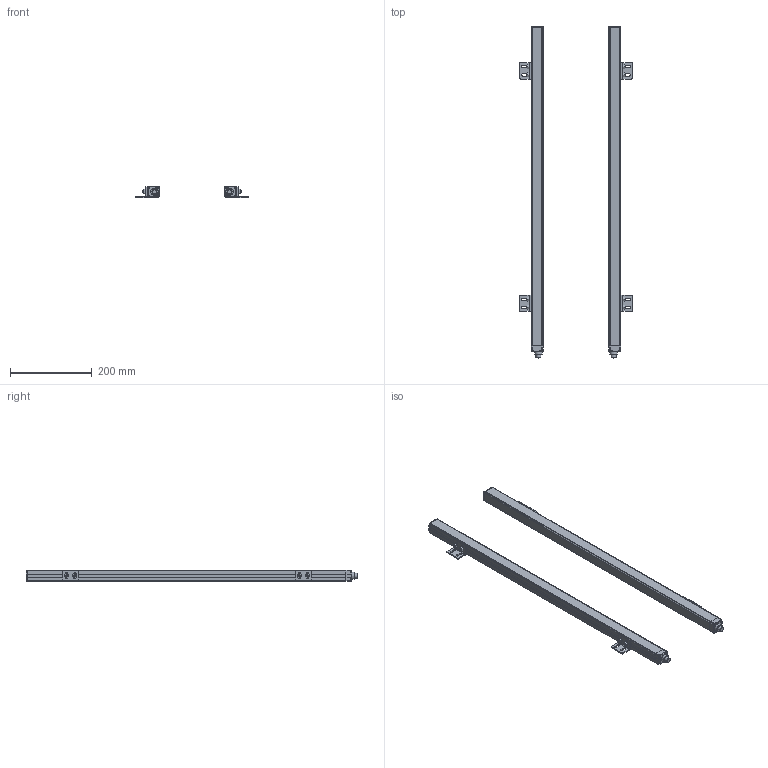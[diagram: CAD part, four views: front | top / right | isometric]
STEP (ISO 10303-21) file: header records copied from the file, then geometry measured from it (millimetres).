
FILE_DESCRIPTION( ( 'STEP AP203' ), '1' );
FILE_NAME( 'p:/temp/worker_12/1588_3284/app_59_02015061609392321660952192d056f_00_00_00_000/STEP/OY005S_2_03.stp', ' ', ( ' ' ), ( ' ' ), 'PSStep 15.0.47', 'PARTsolutions', ' ' );
FILE_SCHEMA( ( 'CONFIG_CONTROL_DESIGN' ) );
Length unit declared in the file: millimetre
Products named in the file (3): OY005S; _OY005S_part1; _OY001S_part2
Assembly tree (6 placements, depth 2):
  OY005S
    _OY005S_part1  x2
    _OY001S_part2  x4
Bounding box: 276 x 813 x 29.34 mm (x, y, z)
Volume: 1304418.2 mm3; surface area: 230720.2 mm2
Topology: 6 solids, 6 shells, 786 faces, 2112 edges, 1394 vertices
Faces by surface type: plane 444, cylinder 324, cone 10, torus 8
Full cylindrical faces by diameter (mm): 2.5 x8, 3 x8, 5 x32, 8.9 x8, 12 x2, 18 x2
Entity records: 10306 total; most frequent: CARTESIAN_POINT 1834, DIRECTION 1788, ORIENTED_EDGE 1690, EDGE_CURVE 845, AXIS2_PLACEMENT_3D 619, VERTEX_POINT 577, LINE 550, VECTOR 550
